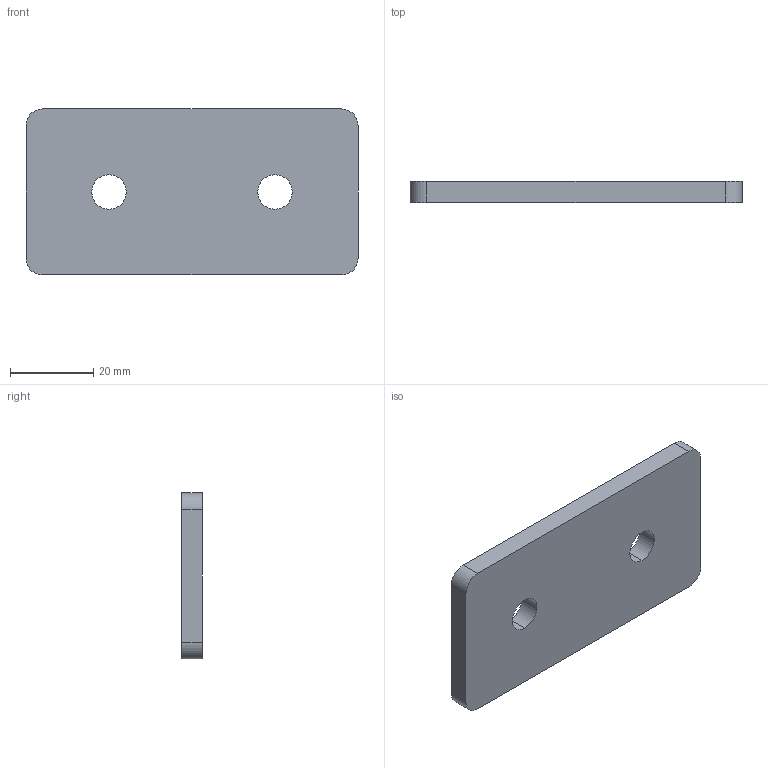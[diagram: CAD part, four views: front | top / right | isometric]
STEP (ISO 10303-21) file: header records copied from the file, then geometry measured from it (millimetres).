
FILE_DESCRIPTION (( 'STEP AP214' ), '1' );
FILE_NAME ('967-40-80-F-2-ZB.step', '2023-06-26T09:08:40', ( '' ), ( '' ), 'SwSTEP 2.0', 'SolidWorks 2022', '' );
FILE_SCHEMA (( 'AUTOMOTIVE_DESIGN' ));
Length unit declared in the file: millimetre
Products named in the file (1): 967-40-80-F-2-ZB
Bounding box: 80 x 5 x 40 mm (x, y, z)
Volume: 15390.3 mm3; surface area: 7582.5 mm2
Topology: 1 solids, 1 shells, 14 faces, 36 edges, 24 vertices
Faces by surface type: cylinder 8, plane 6
Entity records: 478 total; most frequent: DIRECTION 82, CARTESIAN_POINT 75, ORIENTED_EDGE 72, EDGE_CURVE 36, AXIS2_PLACEMENT_3D 31, VERTEX_POINT 24, LINE 20, VECTOR 20
